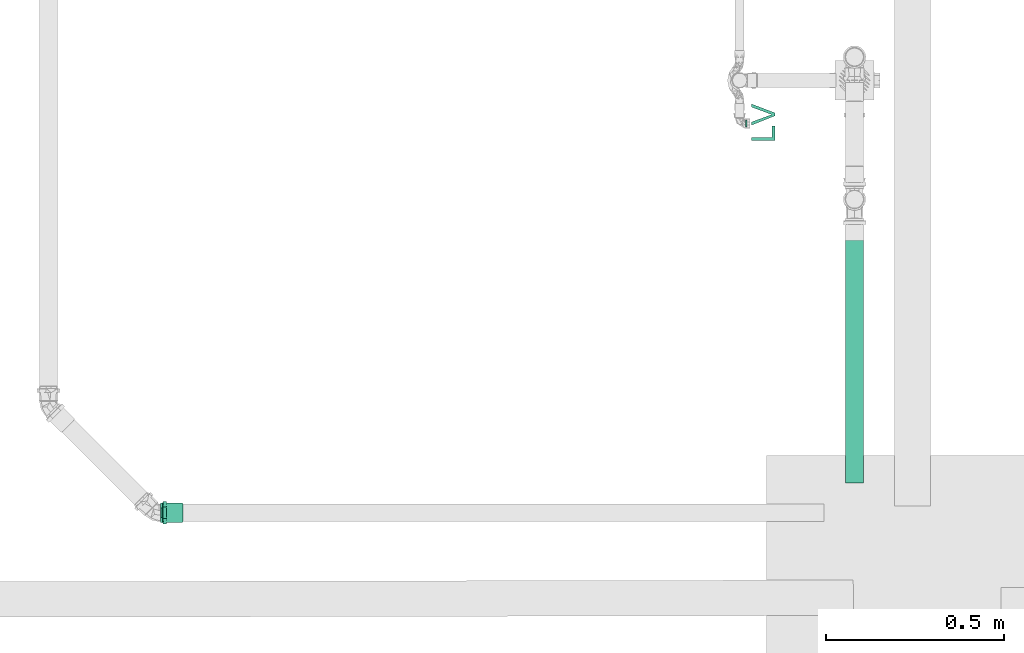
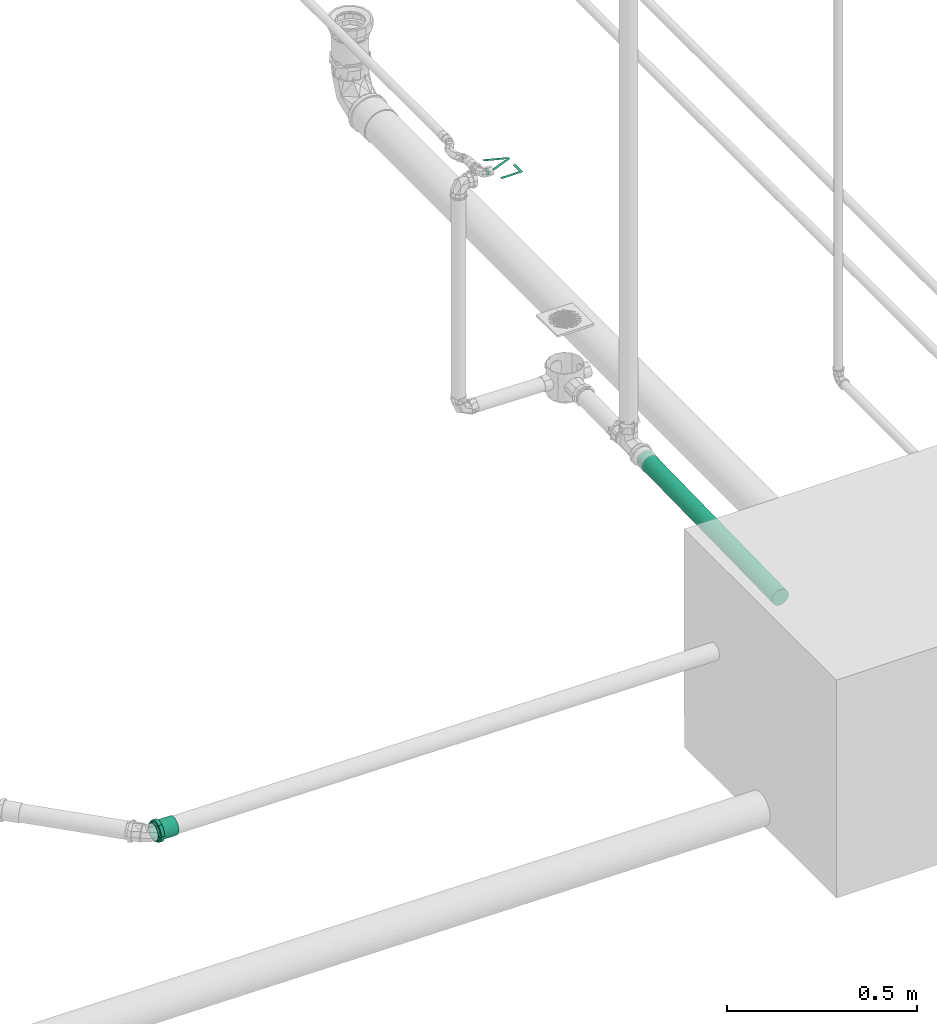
# One storey, part 38 of 589: 1 flow fitting, 1 flow segment, 1 flow terminal.
"""IFC2X3 building model written with IfcOpenShell, lengths in millimetres."""

from ifc_helpers import new_model, entity, si_unit, converted_unit, derived_unit, direction, frame, frame_2d, origin, place, context, subcontext, project, spatial, circle, extrude, face_set, faceted_brep, surface_model, source, transform, mapped, material, type_object, type_shapes, element, save


model = new_model("IFC2X3")

# Units and contexts
model_context = context("Model", 3, precision=0.01, world=origin(), true_north=direction((6.123031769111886e-17, 1.0)))
body_context = subcontext(model_context, "Body", "Model", "MODEL_VIEW")
ifc_project = project(units=[si_unit("LENGTHUNIT", "METRE", prefix="MILLI"), si_unit("AREAUNIT", "SQUARE_METRE"), si_unit("VOLUMEUNIT", "CUBIC_METRE"), converted_unit("PLANEANGLEUNIT", "DEGREE", entity("IfcRatioMeasure", 0.017453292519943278), si_unit("PLANEANGLEUNIT", "RADIAN"), dimensions=[0, 0, 0, 0, 0, 0, 0]), si_unit("MASSUNIT", "GRAM", prefix="KILO"), derived_unit("MASSDENSITYUNIT", [(si_unit("MASSUNIT", "GRAM", prefix="KILO"), 1), (si_unit("LENGTHUNIT", "METRE"), -3)]), derived_unit("IONCONCENTRATIONUNIT", [(si_unit("MASSUNIT", "GRAM", prefix="KILO"), 1), (si_unit("LENGTHUNIT", "METRE"), -3)]), derived_unit("MOMENTOFINERTIAUNIT", [(si_unit("LENGTHUNIT", "METRE"), 4)]), si_unit("TIMEUNIT", "SECOND"), si_unit("FREQUENCYUNIT", "HERTZ"), si_unit("THERMODYNAMICTEMPERATUREUNIT", "DEGREE_CELSIUS"), derived_unit("THERMALTRANSMITTANCEUNIT", [(si_unit("MASSUNIT", "GRAM", prefix="KILO"), 1), (si_unit("THERMODYNAMICTEMPERATUREUNIT", "KELVIN"), -1), (si_unit("TIMEUNIT", "SECOND"), -3)]), derived_unit("THERMALCONDUCTANCEUNIT", [(si_unit("MASSUNIT", "GRAM", prefix="KILO"), 1), (si_unit("THERMODYNAMICTEMPERATUREUNIT", "KELVIN"), -1), (si_unit("TIMEUNIT", "SECOND"), -3), (si_unit("LENGTHUNIT", "METRE"), 1)]), derived_unit("VOLUMETRICFLOWRATEUNIT", [(si_unit("LENGTHUNIT", "METRE"), 3), (si_unit("TIMEUNIT", "SECOND"), -1)]), derived_unit("MASSFLOWRATEUNIT", [(si_unit("MASSUNIT", "GRAM", prefix="KILO"), 1), (si_unit("TIMEUNIT", "SECOND"), -1)]), derived_unit("ROTATIONALFREQUENCYUNIT", [(si_unit("TIMEUNIT", "SECOND"), -1)]), si_unit("ELECTRICCURRENTUNIT", "AMPERE"), si_unit("ELECTRICVOLTAGEUNIT", "VOLT"), si_unit("POWERUNIT", "WATT"), si_unit("FORCEUNIT", "NEWTON", prefix="KILO"), si_unit("ILLUMINANCEUNIT", "LUX"), si_unit("LUMINOUSFLUXUNIT", "LUMEN"), si_unit("LUMINOUSINTENSITYUNIT", "CANDELA"), derived_unit("USERDEFINED", [(si_unit("MASSUNIT", "GRAM", prefix="KILO"), -1), (si_unit("LENGTHUNIT", "METRE"), -2), (si_unit("TIMEUNIT", "SECOND"), 3), (si_unit("LUMINOUSFLUXUNIT", "LUMEN"), 1)]), derived_unit("USERDEFINED", [(si_unit("MASSUNIT", "GRAM", prefix="KILO"), 1), (si_unit("TIMEUNIT", "SECOND"), -3), (si_unit("LENGTHUNIT", "METRE"), 3), (si_unit("ELECTRICCURRENTUNIT", "AMPERE"), -2)]), derived_unit("SOUNDPOWERUNIT", [(si_unit("MASSUNIT", "GRAM", prefix="KILO"), 1), (si_unit("TIMEUNIT", "SECOND"), -3), (si_unit("LENGTHUNIT", "METRE"), 2)]), derived_unit("SOUNDPRESSUREUNIT", [(si_unit("MASSUNIT", "GRAM", prefix="KILO"), 1), (si_unit("LENGTHUNIT", "METRE"), -1), (si_unit("TIMEUNIT", "SECOND"), -2)]), derived_unit("LINEARVELOCITYUNIT", [(si_unit("LENGTHUNIT", "METRE"), 1), (si_unit("TIMEUNIT", "SECOND"), -1)]), si_unit("PRESSUREUNIT", "PASCAL"), derived_unit("USERDEFINED", [(si_unit("MASSUNIT", "GRAM", prefix="KILO"), 1), (si_unit("LENGTHUNIT", "METRE"), -2), (si_unit("TIMEUNIT", "SECOND"), -2)]), derived_unit("LINEARFORCEUNIT", [(si_unit("MASSUNIT", "GRAM", prefix="KILO"), 1), (si_unit("TIMEUNIT", "SECOND"), -2)]), derived_unit("PLANARFORCEUNIT", [(si_unit("MASSUNIT", "GRAM", prefix="KILO"), 1), (si_unit("LENGTHUNIT", "METRE"), -1), (si_unit("TIMEUNIT", "SECOND"), -2)]), derived_unit("SPECIFICHEATCAPACITYUNIT", [(si_unit("THERMODYNAMICTEMPERATUREUNIT", "KELVIN"), -1), (si_unit("LENGTHUNIT", "METRE"), 2), (si_unit("TIMEUNIT", "SECOND"), -2)]), derived_unit("HEATINGVALUEUNIT", [(si_unit("LENGTHUNIT", "METRE"), 2), (si_unit("TIMEUNIT", "SECOND"), -2)]), derived_unit("VAPORPERMEABILITYUNIT", [(si_unit("LENGTHUNIT", "METRE"), -1), (si_unit("TIMEUNIT", "SECOND"), 1)]), derived_unit("DYNAMICVISCOSITYUNIT", [(si_unit("MASSUNIT", "GRAM", prefix="KILO"), 1), (si_unit("TIMEUNIT", "SECOND"), -1), (si_unit("LENGTHUNIT", "METRE"), -1)]), derived_unit("THERMALEXPANSIONCOEFFICIENTUNIT", [(si_unit("THERMODYNAMICTEMPERATUREUNIT", "KELVIN"), -1)]), derived_unit("MODULUSOFELASTICITYUNIT", [(si_unit("MASSUNIT", "GRAM", prefix="KILO"), 1), (si_unit("LENGTHUNIT", "METRE"), -1), (si_unit("TIMEUNIT", "SECOND"), -2)]), derived_unit("ISOTHERMALMOISTURECAPACITYUNIT", [(si_unit("LENGTHUNIT", "METRE"), 3), (si_unit("MASSUNIT", "GRAM", prefix="KILO"), -1)]), derived_unit("MOISTUREDIFFUSIVITYUNIT", [(si_unit("TIMEUNIT", "SECOND"), -1), (si_unit("LENGTHUNIT", "METRE"), 2)])], contexts=[model_context])

# Site, building, storey
site_placement = place(None, origin())
site = spatial("IfcSite", under=ifc_project, at=site_placement, Name="Default", CompositionType="ELEMENT")
building_placement = place(site_placement, origin())
building = spatial("IfcBuilding", under=site, at=building_placement, CompositionType="ELEMENT")
storey_placement = place(building_placement, frame((0.0, 0.0, 100.0)))
storey = spatial("IfcBuildingStorey", under=building, at=storey_placement, Name="TÉRREO", CompositionType="ELEMENT", Elevation=100.0)

# Flow segment
pipe_segment_type = type_object("IfcPipeSegmentType", Name="Tipos de tubos:PVC Esgoto Série Normal", PredefinedType="NOTDEFINED")
flow_segment_placement = place(storey_placement, origin())
element("IfcFlowSegment", 1, at=flow_segment_placement, inside=storey, type_object=pipe_segment_type, Name="Tipos de tubos:PVC Esgoto Série Normal", ObjectType="Tipos de tubos:PVC Esgoto Série Normal", context=body_context, shape_type="SweptSolid", body=[
    extrude(circle(Radius=25.0, at=frame_2d((0.0, -3.383283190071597e-14), x_axis=(1.0, 0.0))), frame((1855.1564123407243, -10853.993476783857, -259.24112536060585), z_axis=(0.0, 0.999800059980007, 0.019996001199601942), x_axis=(1.0, 0.0, 0.0)), (0.0, 0.0, 1.0), 710.9798899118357),
])

# Flow terminal
ifc_material_1 = material(Name="<Unnamed>")
distribution_element_type = type_object("IfcDistributionElementType", Name="Hidráulica_Ponto de Utilização_Uso Provável_Rodrigo MEP:Lavatório LV (Peso 0,3) 60cm do Piso", material=ifc_material_1)
shared_shape_1 = source(origin(), body_context, "Body", "SurfaceModel", [
    surface_model("IfcFaceBasedSurfaceModel", [(0.0, 0.0, 11.595272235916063), (40.81037599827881, 0.0, 11.595272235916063), (40.81037599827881, 8.162075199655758, 11.595272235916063), (8.162075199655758, 8.162075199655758, 11.595272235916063), (8.162075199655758, 65.2966015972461, 11.595272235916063), (0.0, 65.2966015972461, 11.595272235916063), (69.281989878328, 0.0, 11.595272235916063), (77.71507148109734, 0.0, 11.595272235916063), (102.59983590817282, 65.2966015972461, 11.595272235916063), (93.86386479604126, 65.2966015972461, 11.595272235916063), (76.4238056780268, 18.253078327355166, 11.595272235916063), (72.94854709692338, 7.651945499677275, 11.595272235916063), (69.42546385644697, 18.253078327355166, 11.595272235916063), (52.03322939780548, 65.2966015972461, 11.595272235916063), (43.29725828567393, 65.2966015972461, 11.595272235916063), (37.95219179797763, 78.06704158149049, 11.595272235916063), (38.292933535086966, 78.06704158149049, 14.18346268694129), (39.291937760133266, 78.06704158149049, 16.595272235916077), (40.88112398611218, 78.06704158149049, 18.666340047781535), (42.95219179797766, 78.06704158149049, 20.255526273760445), (45.36400134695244, 78.06704158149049, 21.254530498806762), (47.952191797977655, 78.06704158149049, 21.59527223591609), (50.54038224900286, 78.06704158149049, 21.254530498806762), (52.95219179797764, 78.06704158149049, 20.255526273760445), (55.023259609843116, 78.06704158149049, 18.666340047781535), (56.61244583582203, 78.06704158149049, 16.595272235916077), (57.61145006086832, 78.06704158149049, 14.18346268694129), (57.95219179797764, 78.06704158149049, 11.595272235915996), (57.6114500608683, 78.06704158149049, 9.007081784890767), (56.612445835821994, 78.06704158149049, 6.595272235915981), (55.02325960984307, 78.06704158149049, 4.524204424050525), (52.95219179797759, 78.06704158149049, 2.9350181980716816), (50.540382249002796, 78.06704158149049, 1.936013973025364), (47.95219179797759, 78.06704158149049, 1.5952722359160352), (45.36400134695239, 78.06704158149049, 1.936013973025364), (42.952191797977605, 78.06704158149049, 2.9350181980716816), (40.88112398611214, 78.06704158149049, 4.524204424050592), (39.29193776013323, 78.06704158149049, 6.595272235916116), (38.292933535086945, 78.06704158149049, 9.007081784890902), (37.95219179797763, 83.06704158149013, 11.595272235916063), (38.292933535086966, 83.06704158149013, 14.18346268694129), (39.291937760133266, 83.06704158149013, 16.595272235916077), (40.88112398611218, 83.06704158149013, 18.666340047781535), (42.95219179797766, 83.06704158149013, 20.255526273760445), (45.36400134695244, 83.06704158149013, 21.254530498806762), (47.952191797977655, 83.06704158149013, 21.59527223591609), (50.54038224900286, 83.06704158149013, 21.254530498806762), (52.95219179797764, 83.06704158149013, 20.255526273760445), (55.023259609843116, 83.06704158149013, 18.666340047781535), (56.61244583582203, 83.06704158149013, 16.595272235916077), (57.61145006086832, 83.06704158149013, 14.18346268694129), (57.95219179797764, 83.06704158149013, 11.595272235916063), (57.6114500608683, 83.06704158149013, 9.007081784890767), (56.612445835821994, 83.06704158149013, 6.595272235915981), (55.02325960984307, 83.06704158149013, 4.524204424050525), (52.95219179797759, 83.06704158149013, 2.9350181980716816), (50.540382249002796, 83.06704158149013, 1.936013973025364), (47.95219179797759, 83.06704158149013, 1.5952722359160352), (45.36400134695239, 83.06704158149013, 1.936013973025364), (42.952191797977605, 83.06704158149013, 2.9350181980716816), (40.88112398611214, 83.06704158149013, 4.524204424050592), (39.29193776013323, 83.06704158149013, 6.595272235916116), (38.292933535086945, 83.06704158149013, 9.007081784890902)], [face_set([[[0, 1, 2, 3, 4, 5]], [[6, 7, 8, 9, 10, 11, 12, 13, 14]]]), face_set([[[15, 16, 17, 18, 19, 20, 21, 22, 23, 24, 25, 26, 27, 28, 29, 30, 31, 32, 33, 34, 35, 36, 37, 38]], [[39, 40, 41, 42, 43, 44, 45, 46, 47, 48, 49, 50, 51, 52, 53, 54, 55, 56, 57, 58, 59, 60, 61, 62]], [[39, 62, 38, 15]], [[62, 61, 37, 38]], [[60, 59, 35, 36]], [[61, 60, 36, 37]], [[59, 58, 34, 35]], [[33, 34, 58, 57]], [[57, 56, 32, 33]], [[56, 55, 31, 32]], [[54, 53, 29, 30]], [[55, 54, 30, 31]], [[53, 52, 28, 29]], [[27, 28, 52, 51]], [[51, 50, 26, 27]], [[50, 49, 25, 26]], [[48, 47, 23, 24]], [[49, 48, 24, 25]], [[47, 46, 22, 23]], [[21, 22, 46, 45]], [[45, 44, 20, 21]], [[44, 43, 19, 20]], [[42, 41, 17, 18]], [[43, 42, 18, 19]], [[41, 40, 16, 17]], [[15, 16, 40, 39]]])]),
])
type_shapes(distribution_element_type, [shared_shape_1])
flow_terminal_placement = place(storey_placement, frame((1631.2094337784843, -9891.873797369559, 588.4047277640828), z_axis=(0.0, 0.0, 1.0), x_axis=(0.0, 1.0, 0.0)))
element("IfcFlowTerminal", 2, at=flow_terminal_placement, inside=storey, type_object=distribution_element_type, material=ifc_material_1, Name="Hidráulica_Ponto de Utilização_Uso Provável_Rodrigo MEP:Lavatório LV (Peso 0,3) 60cm do Piso", ObjectType="Hidráulica_Ponto de Utilização_Uso Provável_Rodrigo MEP:Lavatório LV (Peso 0,3) 60cm do Piso", context=body_context, shape_type="MappedRepresentation", body=[
    mapped(shared_shape_1, transform((0.0, 0.0, 0.0), scale=1.0)),
])

# Flow fitting
ifc_material_2 = material(Name="PVC Série Normal")
pipe_fitting_type = type_object("IfcPipeFittingType", Name="PVC Esgoto_Luva Simples para Conexão_Rodrigo MEP:Standard", PredefinedType="NOTDEFINED", material=ifc_material_2)
shared_shape_2 = source(origin(), body_context, "Body", "Brep", [
    faceted_brep([(16.599999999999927, 15.900000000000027, -27.53960784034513), (16.599999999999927, 22.485995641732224, -22.485995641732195), (16.599999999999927, 13.599999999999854, -23.555890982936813), (16.599999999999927, 7.039878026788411, -26.273182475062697), (16.599999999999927, 8.2304456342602, -30.71644127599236), (16.599999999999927, 19.233304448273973, -19.233304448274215), (16.599999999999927, 27.539607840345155, -15.899999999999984), (16.599999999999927, 23.55589098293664, -13.600000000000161), (16.599999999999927, 26.273182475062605, -7.03987802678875), (16.599999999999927, 30.716441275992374, -8.230445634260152), (16.599999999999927, 27.2, 0.0), (16.599999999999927, 31.8, 0.0), (16.599999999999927, 26.273182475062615, 7.0398780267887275), (16.599999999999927, 30.71644127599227, 8.23044563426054), (16.599999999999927, 23.555890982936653, 13.60000000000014), (16.599999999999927, 27.539607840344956, 15.900000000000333), (16.599999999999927, 19.233304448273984, 19.2333044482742), (16.599999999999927, 22.485995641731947, 22.48599564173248), (16.599999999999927, 13.599999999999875, 23.555890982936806), (16.599999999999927, 15.899999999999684, 27.53960784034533), (16.599999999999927, 7.039878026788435, 26.27318247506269), (16.599999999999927, 8.230445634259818, 30.716441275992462), (16.599999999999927, 0.0, 27.2), (16.599999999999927, 0.0, 31.8), (16.599999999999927, -7.039878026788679, 26.273182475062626), (16.599999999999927, -8.230445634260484, 30.716441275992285), (16.599999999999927, -13.600000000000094, 23.555890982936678), (16.599999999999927, -15.900000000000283, 27.53960784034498), (16.599999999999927, -19.23330444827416, 19.233304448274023), (16.599999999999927, -22.485995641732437, 22.48599564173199), (16.599999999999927, -23.55589098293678, 13.59999999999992), (16.599999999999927, -27.539607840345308, 15.899999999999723), (16.599999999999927, -30.71644127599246, 8.230445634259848), (16.599999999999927, -26.273182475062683, 7.039878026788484), (16.599999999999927, -31.8, 0.0), (16.599999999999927, -27.2, 0.0), (16.599999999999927, -30.71644127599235, -8.23044563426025), (16.599999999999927, -26.273182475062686, -7.03987802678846), (16.599999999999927, -27.53960784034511, -15.90000000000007), (16.599999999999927, -23.55589098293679, -13.599999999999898), (16.599999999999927, -22.485995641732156, -22.485995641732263), (16.599999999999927, -19.233304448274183, -19.233304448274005), (16.599999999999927, -15.899999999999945, -27.53960784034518), (16.599999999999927, -13.600000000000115, -23.555890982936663), (16.599999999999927, -8.230445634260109, -30.716441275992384), (16.599999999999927, -7.039878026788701, -26.273182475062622), (16.599999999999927, 0.0, -31.8), (16.599999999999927, 0.0, -27.2), (6.500000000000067, -10.708108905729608, 29.429219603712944), (6.500000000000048, -24.359073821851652, 20.44200387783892), (6.500000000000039, -27.120498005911, 15.6595386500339), (6.50000000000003, -29.881922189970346, 10.877073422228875), (6.500000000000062, -15.89769721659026, 27.540937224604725), (6.500000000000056, -20.128385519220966, 23.991470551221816), (6.50000000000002, -30.840961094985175, 5.438536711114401), (6.5000000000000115, -31.8, 0.0), (6.50000000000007, -5.518520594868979, 31.317501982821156), (6.500000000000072, 5.526376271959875, 31.316116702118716), (6.50000000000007, 0.00392783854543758, 31.316809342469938), (6.500000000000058, 20.134403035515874, 23.986420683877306), (6.500000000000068, 10.715490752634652, 29.42653259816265), (6.500000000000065, 15.904605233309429, 27.536948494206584), (6.500000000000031, 29.8846497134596, 10.869577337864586), (6.500000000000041, 27.12442527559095, 15.652735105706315), (6.5000000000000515, 24.364200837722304, 20.435892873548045), (6.5000000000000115, 31.8, 0.0), (6.499999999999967, 24.364200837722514, -20.435892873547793), (6.499999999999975, 27.12442527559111, -15.652735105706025), (6.499999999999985, 29.884649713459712, -10.869577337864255), (6.4999999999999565, 15.904605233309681, -27.53694849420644), (6.499999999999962, 20.134403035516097, -23.986420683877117), (6.499999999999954, 10.715490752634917, -29.42653259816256), (6.499999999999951, 5.526376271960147, -31.31611670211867), (6.499999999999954, -5.518520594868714, -31.317501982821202), (6.499999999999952, 0.003927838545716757, -31.316809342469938), (6.499999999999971, -20.128385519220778, -23.99147055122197), (6.499999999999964, -15.897697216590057, -27.54093722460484), (6.499999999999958, -10.70810890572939, -29.42921960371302), (6.499999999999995, -29.881922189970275, -10.877073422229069), (6.499999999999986, -27.12049800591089, -15.659538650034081), (6.499999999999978, -24.359073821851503, -20.442003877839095), (6.500000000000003, -30.840961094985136, -5.438536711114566), (6.499999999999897, -30.696173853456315, -6.259599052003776), (62.0, 13.600000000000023, -23.55589098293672), (62.0, 19.233304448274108, -19.23330444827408), (62.0, 12.499999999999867, -21.650635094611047), (62.0, 6.470476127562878, -24.14814565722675), (62.0, 7.039878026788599, -26.273182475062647), (62.0, 17.677669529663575, -17.677669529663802), (62.0, 23.55589098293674, -13.599999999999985), (62.0, 21.65063509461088, -12.50000000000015), (62.0, 24.148145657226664, -6.470476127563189), (62.0, 26.27318247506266, -7.039878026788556), (62.0, 25.0, 0.0), (62.0, 27.2, 0.0), (62.0, 24.148145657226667, 6.4704761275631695), (62.0, 26.273182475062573, 7.03987802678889), (62.0, 21.650635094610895, 12.500000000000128), (62.0, 23.555890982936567, 13.600000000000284), (62.0, 17.67766952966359, 17.67766952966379), (62.0, 19.233304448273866, 19.233304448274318), (62.0, 12.499999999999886, 21.650635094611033), (62.0, 13.59999999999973, 23.55589098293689), (62.0, 6.4704761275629, 24.14814565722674), (62.0, 7.039878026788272, 26.273182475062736), (62.0, 0.0, 25.0), (62.0, 0.0, 27.2), (62.0, -6.470476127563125, 24.148145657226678), (62.0, -7.039878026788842, 26.273182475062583), (62.0, -12.500000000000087, 21.650635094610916), (62.0, -13.600000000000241, 23.555890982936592), (62.0, -17.677669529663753, 17.677669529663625), (62.0, -19.233304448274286, 19.2333044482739), (62.0, -21.65063509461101, 12.499999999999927), (62.0, -23.555890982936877, 13.599999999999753), (62.0, -26.27318247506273, 7.039878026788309), (62.0, -24.14814565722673, 6.470476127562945), (62.0, -27.2, 0.0), (62.0, -25.0, 0.0), (62.0, -26.27318247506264, -7.0398780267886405), (62.0, -24.148145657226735, -6.470476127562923), (62.0, -23.5558909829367, -13.600000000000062), (62.0, -21.650635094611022, -12.499999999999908), (62.0, -19.233304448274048, -19.233304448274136), (62.0, -17.67766952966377, -17.677669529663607), (62.0, -13.599999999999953, -23.555890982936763), (62.0, -12.500000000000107, -21.650635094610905), (62.0, -7.039878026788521, -26.27318247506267), (62.0, -6.470476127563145, -24.148145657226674), (62.0, 0.0, -27.2), (62.0, 0.0, -25.0), (0.0, 12.499999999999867, -21.650635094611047), (0.0, 19.233304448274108, -19.23330444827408), (0.0, 13.600000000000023, -23.55589098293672), (0.0, 6.470476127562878, -24.14814565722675), (0.0, 17.677669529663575, -17.677669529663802), (0.0, 23.55589098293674, -13.599999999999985), (0.0, 21.65063509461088, -12.50000000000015), (0.0, 24.148145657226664, -6.470476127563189), (0.0, 26.27318247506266, -7.039878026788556), (0.0, 25.0, 0.0), (0.0, 27.2, 0.0), (0.0, 24.148145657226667, 6.4704761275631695), (0.0, 26.273182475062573, 7.03987802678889), (0.0, 21.650635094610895, 12.500000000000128), (0.0, 23.555890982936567, 13.600000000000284), (0.0, 17.67766952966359, 17.67766952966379), (0.0, 19.233304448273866, 19.233304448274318), (0.0, 12.499999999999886, 21.650635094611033), (0.0, 13.59999999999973, 23.55589098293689), (0.0, 6.4704761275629, 24.14814565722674), (0.0, 7.039878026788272, 26.273182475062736), (0.0, 0.0, 25.0), (0.0, 0.0, 27.2), (0.0, -6.470476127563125, 24.148145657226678), (0.0, -7.039878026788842, 26.273182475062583), (0.0, -12.500000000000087, 21.650635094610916), (0.0, -13.600000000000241, 23.555890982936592), (0.0, -17.677669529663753, 17.677669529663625), (0.0, -19.233304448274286, 19.2333044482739), (0.0, -21.65063509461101, 12.499999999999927), (0.0, -23.555890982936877, 13.599999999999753), (0.0, -26.27318247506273, 7.039878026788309), (0.0, -24.14814565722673, 6.470476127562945), (0.0, -27.2, 0.0), (0.0, -25.0, 0.0), (0.0, -26.27318247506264, -7.0398780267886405), (0.0, -24.148145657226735, -6.470476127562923), (0.0, -23.5558909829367, -13.600000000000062), (0.0, -21.650635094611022, -12.499999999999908), (0.0, -19.233304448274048, -19.233304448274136), (0.0, -17.67766952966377, -17.677669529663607), (0.0, -13.599999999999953, -23.555890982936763), (0.0, -12.500000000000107, -21.650635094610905), (0.0, -7.039878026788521, -26.27318247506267), (0.0, -6.470476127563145, -24.148145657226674), (0.0, 0.0, -27.2), (0.0, 0.0, -25.0), (0.0, 7.039878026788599, -26.273182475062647), (5.300000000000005, -26.37968999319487, 4.651830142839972), (5.299999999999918, -26.25584678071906, 5.354122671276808), (5.300000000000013, -25.559379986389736, 9.303660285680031), (5.300000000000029, -20.835434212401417, 17.48498444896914), (5.300000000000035, -17.216732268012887, 20.521006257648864), (5.300000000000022, -23.19740709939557, 13.394322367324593), (5.3000000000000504, -4.720244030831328, 26.787297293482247), (5.300000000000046, -9.15913717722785, 25.172162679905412), (5.299999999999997, -27.2, 0.0), (5.300000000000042, -13.598030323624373, 23.557028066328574), (5.300000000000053, 9.165451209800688, 25.169864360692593), (5.300000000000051, 13.603939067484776, 23.55361632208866), (5.300000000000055, 4.7269633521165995, 26.786112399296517), (5.300000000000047, 17.221879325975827, 20.516686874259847), (5.300000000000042, 20.839819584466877, 17.479757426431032), (5.3000000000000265, 25.56171296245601, 9.297248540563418), (5.299999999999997, 27.2, 0.0), (5.3000000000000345, 23.20076627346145, 13.388502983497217), (5.300000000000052, 0.003359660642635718, 26.786704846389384), (5.299999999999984, 25.56171296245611, -9.29724854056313), (5.299999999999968, 20.839819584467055, -17.47975742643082), (5.2999999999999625, 17.22187932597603, -20.516686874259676), (5.299999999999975, 23.200766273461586, -13.388502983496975), (5.299999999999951, 4.726963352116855, -26.78611239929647), (5.2999999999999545, 9.165451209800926, -25.169864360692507), (5.299999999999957, 13.603939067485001, -23.553616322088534), (5.29999999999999, -26.379689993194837, -4.651830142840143), (5.299999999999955, -9.159137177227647, -25.17216267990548), (5.299999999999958, -13.5980303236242, -23.55702806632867), (5.299999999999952, -4.720244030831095, -26.787297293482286), (5.299999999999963, -17.216732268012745, -20.52100625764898), (5.299999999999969, -20.83543421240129, -17.484984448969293), (5.299999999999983, -25.559379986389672, -9.303660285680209), (5.299999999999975, -23.197407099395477, -13.394322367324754), (5.299999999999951, 0.003359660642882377, -26.78670484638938), (39.0, -25.0, 0.0), (39.0, 25.0, 0.0)], [[[0, 1, 2]], [[0, 2, 3]], [[3, 4, 0]], [[2, 1, 5]], [[6, 5, 1]], [[7, 5, 6]], [[8, 7, 6]], [[8, 6, 9]], [[8, 9, 10]], [[10, 9, 11]], [[12, 10, 11]], [[12, 11, 13]], [[14, 12, 13]], [[14, 13, 15]], [[16, 14, 15]], [[15, 17, 16]], [[17, 18, 16]], [[17, 19, 18]], [[18, 19, 20]], [[21, 20, 19]], [[20, 21, 22]], [[22, 21, 23]], [[22, 23, 24]], [[24, 23, 25]], [[24, 25, 26]], [[27, 26, 25]], [[27, 28, 26]], [[28, 27, 29]], [[30, 28, 29]], [[31, 30, 29]], [[32, 30, 31]], [[33, 30, 32]], [[33, 32, 34]], [[35, 33, 34]], [[36, 35, 34]], [[36, 37, 35]], [[37, 36, 38]], [[39, 37, 38]], [[39, 38, 40]], [[39, 40, 41]], [[40, 42, 41]], [[41, 42, 43]], [[43, 42, 44]], [[44, 45, 43]], [[46, 45, 44]], [[4, 47, 46]], [[46, 47, 45]], [[4, 3, 47]], [[48, 27, 25]], [[31, 29, 49]], [[31, 49, 50, 51]], [[52, 53, 27]], [[32, 51, 54]], [[54, 55, 34]], [[54, 34, 32]], [[25, 56, 48]], [[49, 29, 53]], [[23, 57, 58, 56]], [[59, 19, 17]], [[27, 53, 29]], [[48, 52, 27]], [[31, 51, 32]], [[57, 23, 21]], [[60, 19, 61]], [[15, 62, 63, 64]], [[19, 60, 21]], [[15, 13, 62]], [[17, 64, 59]], [[57, 21, 60]], [[23, 56, 25]], [[15, 64, 17]], [[13, 65, 62]], [[13, 11, 65]], [[59, 61, 19]], [[65, 11, 9]], [[6, 1, 66]], [[6, 66, 67, 68]], [[69, 70, 0]], [[68, 65, 9]], [[71, 69, 0]], [[71, 0, 4]], [[4, 72, 71]], [[66, 1, 70]], [[46, 73, 74, 72]], [[75, 76, 42]], [[0, 70, 1]], [[75, 42, 40]], [[6, 68, 9]], [[73, 46, 44]], [[77, 42, 76]], [[38, 78, 79, 80]], [[42, 77, 44]], [[38, 36, 78]], [[40, 80, 75]], [[73, 44, 77]], [[46, 72, 4]], [[38, 80, 40]], [[36, 81, 82, 78]], [[55, 81, 34]], [[34, 81, 36]], [[83, 84, 85]], [[83, 85, 86]], [[86, 87, 83]], [[85, 84, 88]], [[89, 88, 84]], [[88, 89, 90]], [[90, 89, 91]], [[92, 91, 89]], [[92, 93, 91]], [[93, 92, 94]], [[95, 93, 94]], [[94, 96, 95]], [[95, 96, 97]], [[98, 97, 96]], [[97, 98, 99]], [[99, 98, 100]], [[101, 99, 100]], [[100, 102, 101]], [[101, 102, 103]], [[104, 103, 102]], [[103, 104, 105]], [[105, 104, 106]], [[105, 106, 107]], [[107, 106, 108]], [[107, 108, 109]], [[110, 109, 108]], [[110, 111, 109]], [[111, 110, 112]], [[112, 113, 111]], [[114, 113, 112]], [[113, 114, 115]], [[115, 116, 113]], [[117, 116, 115]], [[117, 118, 116]], [[119, 118, 117]], [[119, 120, 118]], [[120, 119, 121]], [[121, 122, 120]], [[122, 121, 123]], [[122, 123, 124]], [[123, 125, 124]], [[124, 125, 126]], [[126, 125, 127]], [[127, 128, 126]], [[129, 128, 127]], [[87, 130, 129]], [[129, 130, 128]], [[87, 86, 130]], [[131, 132, 133]], [[134, 131, 133]], [[135, 132, 131]], [[132, 135, 136]], [[137, 136, 135]], [[138, 136, 137]], [[136, 138, 139]], [[138, 140, 139]], [[141, 139, 140]], [[141, 140, 142]], [[142, 143, 141]], [[144, 143, 142]], [[143, 144, 145]], [[146, 145, 144]], [[147, 145, 146]], [[147, 146, 148]], [[148, 149, 147]], [[150, 149, 148]], [[149, 150, 151]], [[152, 151, 150]], [[153, 151, 152]], [[154, 153, 152]], [[155, 153, 154]], [[156, 155, 154]], [[155, 156, 157]], [[156, 158, 157]], [[159, 157, 158]], [[158, 160, 159]], [[159, 160, 161]], [[162, 161, 160]], [[160, 163, 162]], [[162, 163, 164]], [[163, 165, 164]], [[164, 165, 166]], [[165, 167, 166]], [[168, 166, 167]], [[167, 169, 168]], [[170, 168, 169]], [[171, 170, 169]], [[171, 172, 170]], [[173, 172, 171]], [[174, 172, 173]], [[173, 175, 174]], [[174, 175, 176]], [[175, 177, 176]], [[177, 134, 178]], [[176, 177, 178]], [[133, 178, 134]], [[162, 179, 180, 181]], [[159, 182, 183]], [[182, 161, 181, 184]], [[185, 155, 186]], [[161, 162, 181]], [[187, 179, 164]], [[183, 188, 157]], [[183, 157, 159]], [[161, 182, 159]], [[189, 190, 149]], [[189, 149, 151]], [[157, 188, 186]], [[157, 186, 155]], [[153, 155, 185]], [[164, 179, 162]], [[151, 191, 189]], [[147, 192, 193]], [[143, 194, 195]], [[194, 145, 193, 196]], [[143, 195, 141]], [[10, 12, 96, 94]], [[149, 192, 147]], [[153, 185, 197, 191]], [[153, 191, 151]], [[145, 147, 193]], [[190, 192, 149]], [[145, 194, 143]], [[139, 195, 198]], [[132, 199, 200]], [[199, 136, 198, 201]], [[202, 178, 203]], [[136, 139, 198]], [[139, 141, 195]], [[92, 8, 10, 94]], [[133, 203, 178]], [[200, 204, 133]], [[136, 199, 132]], [[205, 164, 166]], [[206, 207, 172]], [[133, 204, 203]], [[206, 172, 174]], [[176, 178, 202]], [[200, 133, 132]], [[174, 208, 206]], [[170, 209, 210]], [[166, 211, 205]], [[211, 168, 210, 212]], [[168, 211, 166]], [[172, 209, 170]], [[176, 202, 213, 208]], [[176, 208, 174]], [[168, 170, 210]], [[207, 209, 172]], [[205, 187, 164]], [[116, 118, 214, 165, 163]], [[156, 109, 111, 158]], [[111, 113, 160, 158]], [[113, 116, 163, 160]], [[107, 109, 156, 154]], [[154, 152, 105, 107]], [[103, 105, 152, 150]], [[103, 150, 148, 101]], [[142, 95, 97, 144]], [[97, 99, 146, 144]], [[99, 101, 148, 146]], [[93, 95, 142, 140, 215]], [[215, 140, 138, 91, 93]], [[135, 131, 85, 88]], [[90, 91, 138, 137]], [[90, 137, 135, 88]], [[86, 85, 131, 134]], [[134, 177, 130, 86]], [[128, 130, 177, 175]], [[128, 175, 173, 126]], [[167, 120, 122, 169]], [[122, 124, 171, 169]], [[124, 126, 173, 171]], [[118, 120, 167, 165, 214]], [[211, 78, 82, 81, 55, 187, 205]], [[79, 78, 211, 212, 210, 80]], [[75, 80, 210, 209, 207, 76]], [[207, 206, 208, 73, 77, 76]], [[213, 202, 72, 74, 73, 208]], [[203, 204, 69, 71, 72, 202]], [[198, 195, 65, 68]], [[199, 201, 198, 68, 67, 66]], [[204, 200, 199, 66, 70, 69]], [[195, 194, 62, 65]], [[197, 185, 56, 58, 57, 191]], [[63, 62, 194, 196, 193, 64]], [[57, 60, 61, 190, 189, 191]], [[193, 192, 190, 61, 59, 64]], [[48, 56, 185, 186, 188, 52]], [[187, 55, 54, 51, 181, 180, 179]], [[182, 184, 181, 51, 50, 49]], [[188, 183, 182, 49, 53, 52]], [[30, 33, 115, 114]], [[117, 115, 33, 35]], [[26, 28, 112, 110]], [[114, 112, 28, 30]], [[24, 26, 110, 108]], [[108, 106, 22, 24]], [[18, 20, 104, 102]], [[100, 16, 18, 102]], [[12, 14, 98, 96]], [[100, 98, 14, 16]], [[104, 20, 22, 106]], [[89, 7, 8, 92]], [[83, 87, 3, 2]], [[7, 89, 84, 5]], [[83, 2, 5, 84]], [[87, 129, 47, 3]], [[43, 45, 127, 125]], [[123, 41, 43, 125]], [[37, 39, 121, 119]], [[123, 121, 39, 41]], [[35, 37, 119, 117]], [[127, 45, 47, 129]]]),
])
type_shapes(pipe_fitting_type, [shared_shape_2])
flow_fitting_placement = place(storey_placement, frame((-95.02673619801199, -10937.991585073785, -277.8650206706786), z_axis=(0.009999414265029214, -0.004141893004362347, 0.9999414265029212), x_axis=(0.9999500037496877, 0.0, -0.009999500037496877)))
element("IfcFlowFitting", 3, at=flow_fitting_placement, inside=storey, type_object=pipe_fitting_type, material=ifc_material_2, Name="PVC Esgoto_Luva Simples para Conexão_Rodrigo MEP:Standard", ObjectType="PVC Esgoto_Luva Simples para Conexão_Rodrigo MEP:Standard", context=body_context, shape_type="MappedRepresentation", body=[
    mapped(shared_shape_2, transform((0.0, 0.0, 0.0), scale=1.0)),
])

save(model, "model.ifc")
